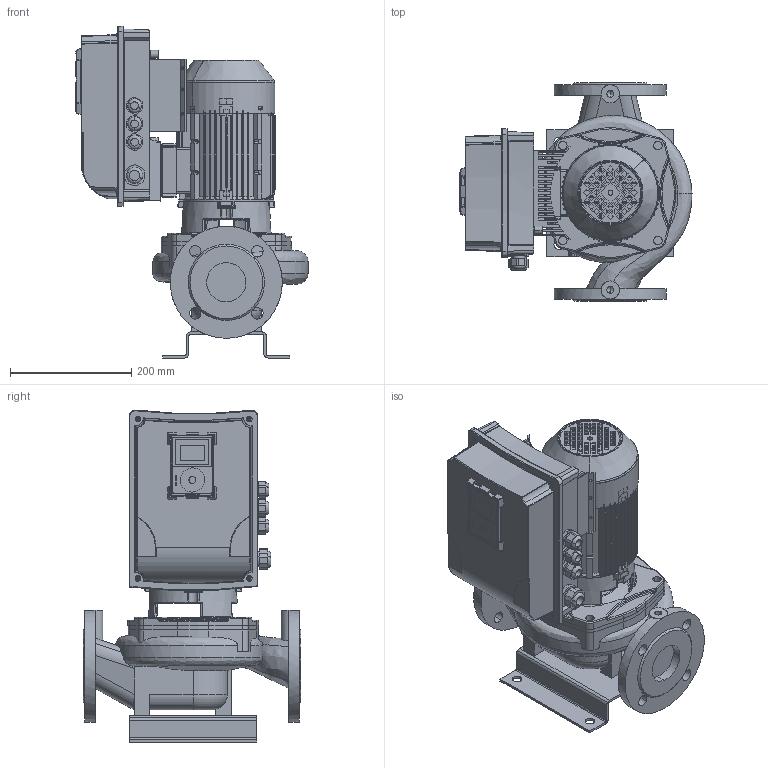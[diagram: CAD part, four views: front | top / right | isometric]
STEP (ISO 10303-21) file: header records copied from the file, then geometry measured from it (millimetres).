
FILE_DESCRIPTION(('STEP AP214'),'1');
FILE_NAME('export.stp','2018-06-01T13:14:36',(' '),(' '),'Spatial InterOp 3D',' ',' ');
FILE_SCHEMA(('AUTOMOTIVE_DESIGN { 1 0 10303 214 1 1 1 1 }'));
Length unit declared in the file: millimetre
Products named in the file (27): W_ALP10664; V_JALKA35973; V_PPAL10651066; V_TLL65AB80A1102; W_ALP10664900KPVS; 160022; 160003; V_MKP80-2-F19_VS; 480032; 480031___; 480034; 480033___; 160133; SOVITUSPALA; Vacon_MS2; G43699; Vacon20CP_MS2; MS2_bottom_final; P101407; MS2_cover_final; Vacon_Display; CAD-3D-VACON-M100-Display.sldasm; Vacon_display_pla; Vacon_display_scr; DIN_966-M5x10; M20_tiivisteholkk; M25_tiivisteholkk
Assembly tree (31 placements, depth 6):
  W_ALP10664900KPVS
    W_ALP10664
      V_JALKA35973
      V_PPAL10651066
      V_TLL65AB80A1102
    V_MKP80-2-F19_VS
      160022
        160003
      480032
        480031___
      480034
        480033___
      160133
      SOVITUSPALA
      Vacon_MS2
        G43699
        Vacon20CP_MS2
          MS2_bottom_final
          P101407
          MS2_cover_final
          Vacon_Display
            CAD-3D-VACON-M100-Display.sldasm
            Vacon_display_pla
            Vacon_display_scr
          DIN_966-M5x10  x4
          M20_tiivisteholkk  x3
          M25_tiivisteholkk
Bounding box: 383.31 x 360 x 548.3 mm (x, y, z)
Volume: 7930565.7 mm3; surface area: 1919591.6 mm2
Topology: 22 solids, 1495 shells, 5381 faces, 17976 edges, 14056 vertices
Faces by surface type: bspline 1899, plane 1408, cylinder 1257, torus 450, cone 264, sphere 103
Entity records: 250978 total; most frequent: CARTESIAN_POINT 106689, ORIENTED_EDGE 26996, DIRECTION 18226, EDGE_CURVE 17320, VERTEX_POINT 13738, B_SPLINE_CURVE_WITH_KNOTS 7902, AXIS2_PLACEMENT_3D 7007, EDGE_LOOP 5632
